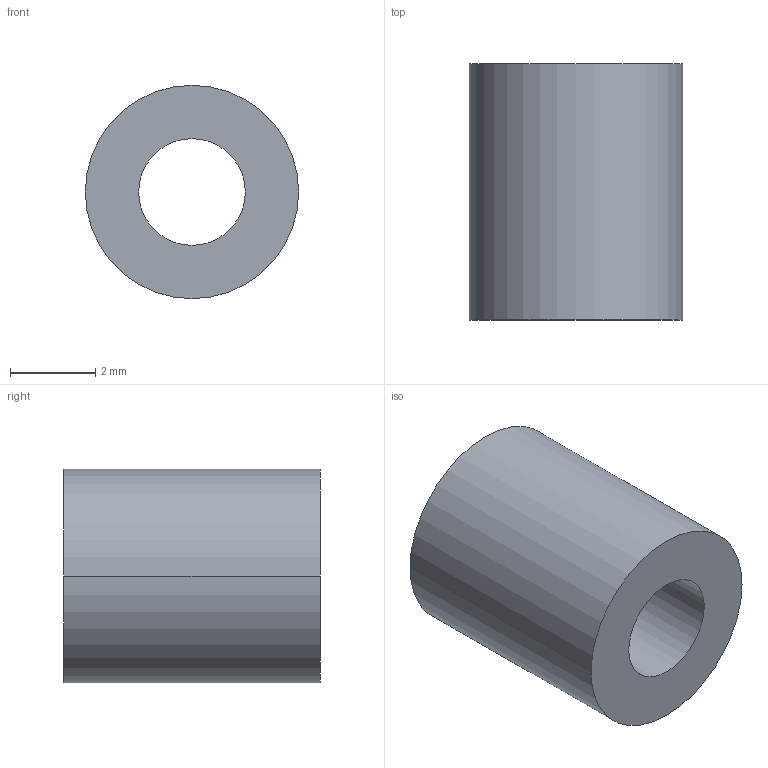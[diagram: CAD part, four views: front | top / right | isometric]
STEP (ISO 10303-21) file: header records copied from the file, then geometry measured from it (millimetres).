
FILE_DESCRIPTION (( 'STEP AP203' ), '1' );
FILE_NAME ('30800.WPP5A2.5.step', '2019-01-23T22:17:05', ( '' ), ( '' ), 'SwSTEP 2.0', 'SolidWorks 2017', '' );
FILE_SCHEMA (( 'CONFIG_CONTROL_DESIGN' ));
Length unit declared in the file: millimetre
Products named in the file (1): 30800.WPP5A2.5
Bounding box: 5 x 6 x 5 mm (x, y, z)
Volume: 86.4 mm3; surface area: 167.9 mm2
Topology: 1 solids, 1 shells, 8 faces, 16 edges, 10 vertices
Faces by surface type: cylinder 4, torus 2, plane 2
Entity records: 297 total; most frequent: DIRECTION 46, CARTESIAN_POINT 35, ORIENTED_EDGE 32, AXIS2_PLACEMENT_3D 21, EDGE_CURVE 16, CIRCLE 12, EDGE_LOOP 10, VERTEX_POINT 10
